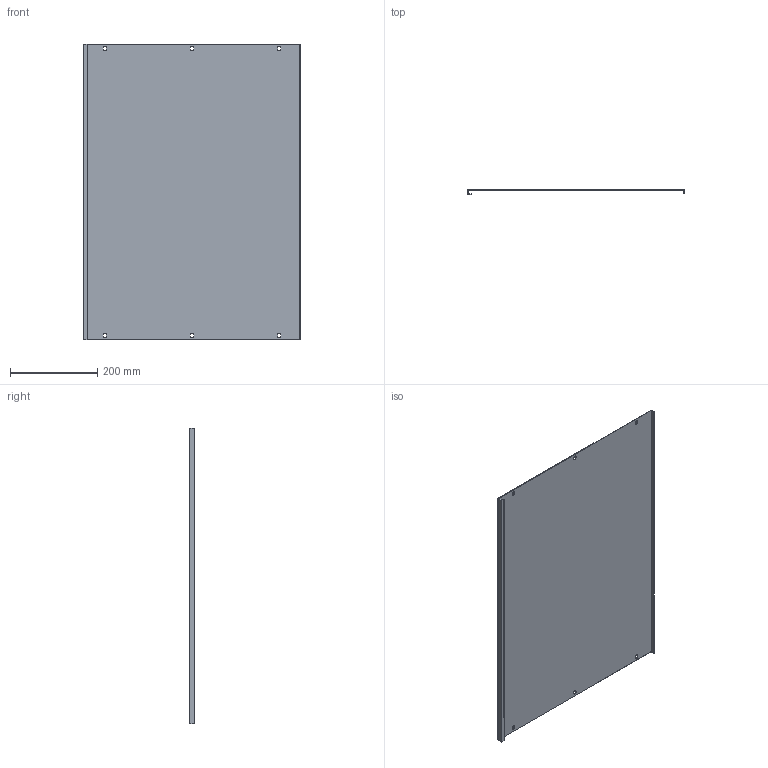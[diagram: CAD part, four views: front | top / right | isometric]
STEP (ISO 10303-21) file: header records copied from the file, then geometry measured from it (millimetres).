
FILE_DESCRIPTION (( 'STEP AP214' ), '1' );
FILE_NAME ('FO-00-PVS-050-080 Ïëàñòðîí ãëóõîé âíóòðåííèé 500õ800.STEP', '2025-08-26T08:43:38', ( '' ), ( '' ), 'SwSTEP 2.0', 'SolidWorks 2023', '' );
FILE_SCHEMA (( 'AUTOMOTIVE_DESIGN' ));
Length unit declared in the file: millimetre
Products named in the file (1): FO-00-PVS-050-080 Пластрон глухой внутренний 500х800
Bounding box: 498 x 12.5 x 679 mm (x, y, z)
Volume: 533158.6 mm3; surface area: 714739.1 mm2
Topology: 1 solids, 1 shells, 52 faces, 150 edges, 100 vertices
Faces by surface type: plane 34, cylinder 18
Entity records: 1757 total; most frequent: CARTESIAN_POINT 303, ORIENTED_EDGE 300, DIRECTION 292, EDGE_CURVE 150, LINE 114, VECTOR 114, VERTEX_POINT 100, AXIS2_PLACEMENT_3D 89
